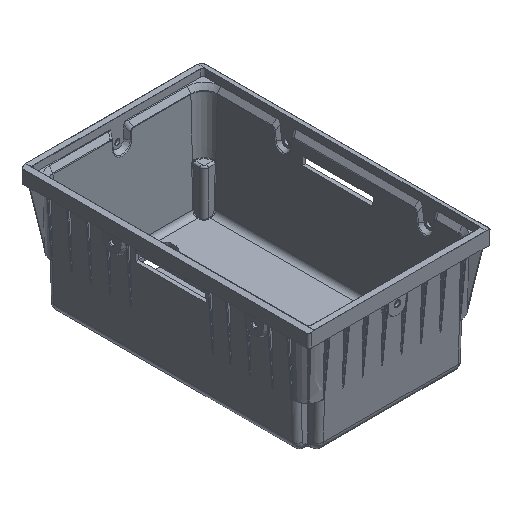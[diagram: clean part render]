
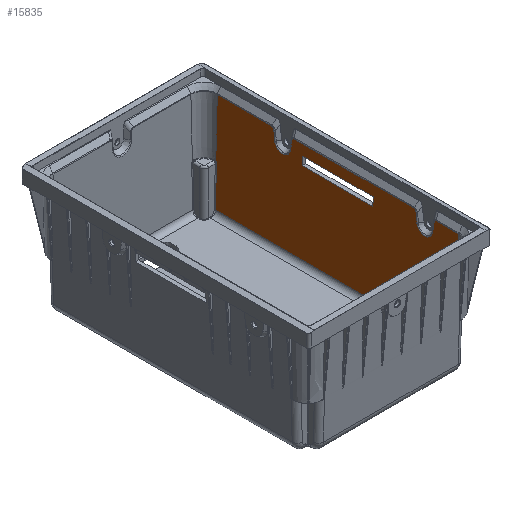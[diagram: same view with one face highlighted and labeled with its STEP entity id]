
A CAD part, isometric view. The second image highlights one B-rep face of the part: STEP entity #15835.
In plain terms, the highlighted planar face has unit normal (-1, 0, 0.026).
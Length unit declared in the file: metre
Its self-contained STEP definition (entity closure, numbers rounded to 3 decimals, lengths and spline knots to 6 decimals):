
#553=ELLIPSE('',#17165,0.004722,0.002501);
#573=ELLIPSE('',#17258,0.004721,0.002501);
#574=ELLIPSE('',#17270,0.004722,0.002501);
#575=ELLIPSE('',#17276,0.004732,0.002504);
#1037=PLANE('',#17277);
#1104=CIRCLE('',#16021,0.002002);
#1330=CIRCLE('',#17155,0.006796);
#1372=CIRCLE('',#17264,0.006796);
#1377=CIRCLE('',#17278,0.002001);
#5572=ORIENTED_EDGE('',*,*,#7297,.T.);
#5573=ORIENTED_EDGE('',*,*,#7301,.T.);
#5574=ORIENTED_EDGE('',*,*,#7304,.T.);
#5575=ORIENTED_EDGE('',*,*,#7306,.T.);
#5576=ORIENTED_EDGE('',*,*,#8266,.T.);
#5577=ORIENTED_EDGE('',*,*,#8264,.F.);
#5578=ORIENTED_EDGE('',*,*,#8258,.F.);
#5579=ORIENTED_EDGE('',*,*,#8256,.T.);
#5580=ORIENTED_EDGE('',*,*,#8250,.F.);
#5581=ORIENTED_EDGE('',*,*,#8248,.F.);
#5582=ORIENTED_EDGE('',*,*,#8241,.T.);
#5583=ORIENTED_EDGE('',*,*,#8272,.T.);
#5584=ORIENTED_EDGE('',*,*,#6242,.T.);
#5585=ORIENTED_EDGE('',*,*,#6244,.T.);
#5586=ORIENTED_EDGE('',*,*,#8273,.T.);
#5587=ORIENTED_EDGE('',*,*,#8274,.T.);
#5588=ORIENTED_EDGE('',*,*,#8275,.T.);
#5589=ORIENTED_EDGE('',*,*,#8276,.F.);
#5590=ORIENTED_EDGE('',*,*,#8120,.T.);
#5591=ORIENTED_EDGE('',*,*,#8122,.F.);
#5592=ORIENTED_EDGE('',*,*,#8113,.F.);
#5593=ORIENTED_EDGE('',*,*,#8107,.T.);
#5594=ORIENTED_EDGE('',*,*,#8105,.F.);
#5595=ORIENTED_EDGE('',*,*,#8271,.F.);
#6242=EDGE_CURVE('',#8545,#8556,#1104,.T.);
#6244=EDGE_CURVE('',#8556,#8558,#10024,.T.);
#7297=EDGE_CURVE('',#9278,#9276,#10758,.T.);
#7301=EDGE_CURVE('',#9276,#9280,#10762,.T.);
#7304=EDGE_CURVE('',#9280,#9282,#10765,.T.);
#7306=EDGE_CURVE('',#9282,#9278,#10767,.T.);
#8105=EDGE_CURVE('',#9790,#9791,#11309,.T.);
#8107=EDGE_CURVE('',#9792,#9791,#1330,.T.);
#8113=EDGE_CURVE('',#9792,#9795,#11313,.T.);
#8120=EDGE_CURVE('',#9801,#9800,#11318,.T.);
#8122=EDGE_CURVE('',#9795,#9800,#553,.T.);
#8241=EDGE_CURVE('',#9874,#9873,#11373,.T.);
#8248=EDGE_CURVE('',#9874,#9877,#573,.T.);
#8250=EDGE_CURVE('',#9877,#9878,#11378,.T.);
#8256=EDGE_CURVE('',#9881,#9878,#1372,.T.);
#8258=EDGE_CURVE('',#9881,#9882,#11382,.T.);
#8264=EDGE_CURVE('',#9882,#9885,#574,.T.);
#8266=EDGE_CURVE('',#9886,#9885,#11386,.T.);
#8271=EDGE_CURVE('',#9886,#9790,#575,.T.);
#8272=EDGE_CURVE('',#9873,#8545,#11389,.T.);
#8273=EDGE_CURVE('',#8558,#9888,#11390,.T.);
#8274=EDGE_CURVE('',#9888,#9889,#11391,.T.);
#8275=EDGE_CURVE('',#9889,#8543,#1377,.T.);
#8276=EDGE_CURVE('',#9801,#8543,#11392,.T.);
#8543=VERTEX_POINT('',#22392);
#8545=VERTEX_POINT('',#22453);
#8556=VERTEX_POINT('',#22539);
#8558=VERTEX_POINT('',#22544);
#9276=VERTEX_POINT('',#24908);
#9278=VERTEX_POINT('',#24911);
#9280=VERTEX_POINT('',#24917);
#9282=VERTEX_POINT('',#24923);
#9790=VERTEX_POINT('',#27007);
#9791=VERTEX_POINT('',#27009);
#9792=VERTEX_POINT('',#27088);
#9795=VERTEX_POINT('',#27128);
#9800=VERTEX_POINT('',#27141);
#9801=VERTEX_POINT('',#27143);
#9873=VERTEX_POINT('',#28264);
#9874=VERTEX_POINT('',#28266);
#9877=VERTEX_POINT('',#28358);
#9878=VERTEX_POINT('',#28362);
#9881=VERTEX_POINT('',#28477);
#9882=VERTEX_POINT('',#28481);
#9885=VERTEX_POINT('',#28572);
#9886=VERTEX_POINT('',#28576);
#9888=VERTEX_POINT('',#28676);
#9889=VERTEX_POINT('',#28678);
#10024=LINE('',#22545,#11519);
#10758=LINE('',#24910,#12253);
#10762=LINE('',#24919,#12257);
#10765=LINE('',#24925,#12260);
#10767=LINE('',#24928,#12262);
#11309=LINE('',#27008,#12804);
#11313=LINE('',#27127,#12808);
#11318=LINE('',#27142,#12813);
#11373=LINE('',#28265,#12868);
#11378=LINE('',#28361,#12873);
#11382=LINE('',#28480,#12877);
#11386=LINE('',#28575,#12881);
#11389=LINE('',#28674,#12884);
#11390=LINE('',#28675,#12885);
#11391=LINE('',#28677,#12886);
#11392=LINE('',#28680,#12887);
#11519=VECTOR('',#17642,1.);
#12253=VECTOR('',#19648,1.);
#12257=VECTOR('',#19654,1.);
#12260=VECTOR('',#19659,1.);
#12262=VECTOR('',#19663,1.);
#12804=VECTOR('',#21187,1.);
#12808=VECTOR('',#21203,1.);
#12813=VECTOR('',#21216,1.);
#12868=VECTOR('',#21453,1.);
#12873=VECTOR('',#21470,1.);
#12877=VECTOR('',#21486,1.);
#12881=VECTOR('',#21502,1.);
#12884=VECTOR('',#21515,1.);
#12885=VECTOR('',#21516,1.);
#12886=VECTOR('',#21517,1.);
#12887=VECTOR('',#21520,1.);
#13786=EDGE_LOOP('',(#5572,#5573,#5574,#5575));
#13787=EDGE_LOOP('',(#5576,#5577,#5578,#5579,#5580,#5581,#5582,#5583,#5584,
#5585,#5586,#5587,#5588,#5589,#5590,#5591,#5592,#5593,#5594,#5595));
#14705=FACE_BOUND('',#13786,.T.);
#14706=FACE_BOUND('',#13787,.T.);
#15835=ADVANCED_FACE('',(#14705,#14706),#1037,.T.);
#16021=AXIS2_PLACEMENT_3D('',#22540,#17636,#17637);
#17155=AXIS2_PLACEMENT_3D('',#27087,#21190,#21191);
#17165=AXIS2_PLACEMENT_3D('',#27217,#21219,#21220);
#17258=AXIS2_PLACEMENT_3D('',#28357,#21464,#21465);
#17264=AXIS2_PLACEMENT_3D('',#28476,#21480,#21481);
#17270=AXIS2_PLACEMENT_3D('',#28571,#21496,#21497);
#17276=AXIS2_PLACEMENT_3D('',#28672,#21511,#21512);
#17277=AXIS2_PLACEMENT_3D('',#28673,#21513,#21514);
#17278=AXIS2_PLACEMENT_3D('',#28679,#21518,#21519);
#17636=DIRECTION('',(1.,0.,-0.026));
#17637=DIRECTION('',(0.019,-0.7,0.714));
#17642=DIRECTION('',(-0.026,0.,-1.));
#19648=DIRECTION('',(-0.026,0.,-1.));
#19654=DIRECTION('',(0.,1.,0.));
#19659=DIRECTION('',(0.026,0.,1.));
#19663=DIRECTION('',(0.,-1.,0.));
#21187=DIRECTION('',(-0.026,-0.111,-0.993));
#21190=DIRECTION('',(1.,0.,-0.026));
#21191=DIRECTION('',(-0.003,-0.994,-0.111));
#21203=DIRECTION('',(0.026,-0.111,0.993));
#21216=DIRECTION('',(0.,1.,0.));
#21219=DIRECTION('',(1.,0.,-0.026));
#21220=DIRECTION('',(-0.025,-0.257,-0.966));
#21453=DIRECTION('',(0.,1.,0.));
#21464=DIRECTION('',(1.,0.,-0.026));
#21465=DIRECTION('',(-0.025,0.257,-0.966));
#21470=DIRECTION('',(-0.026,-0.111,-0.993));
#21480=DIRECTION('',(1.,0.,-0.026));
#21481=DIRECTION('',(-0.003,-0.994,-0.111));
#21486=DIRECTION('',(0.026,-0.111,0.993));
#21496=DIRECTION('',(1.,0.,-0.026));
#21497=DIRECTION('',(-0.025,-0.257,-0.966));
#21502=DIRECTION('',(0.,1.,0.));
#21511=DIRECTION('',(1.,0.,-0.026));
#21512=DIRECTION('',(-0.025,0.258,-0.966));
#21513=DIRECTION('',(-1.,0.,0.026));
#21514=DIRECTION('',(0.,-1.,0.));
#21515=DIRECTION('',(-0.026,0.,-1.));
#21516=DIRECTION('',(0.,-1.,0.));
#21517=DIRECTION('',(0.026,0.,1.));
#21518=DIRECTION('',(1.,0.,-0.026));
#21519=DIRECTION('',(0.,1.,0.));
#21520=DIRECTION('',(-0.026,0.,-1.));
#22392=CARTESIAN_POINT('',(0.06843,-0.1025,0.038865));
#22453=CARTESIAN_POINT('',(0.06843,0.1025,0.038865));
#22539=CARTESIAN_POINT('',(0.068393,0.1019,0.037437));
#22540=CARTESIAN_POINT('',(0.068393,0.103902,0.037437));
#22544=CARTESIAN_POINT('',(0.067514,0.1019,0.003891));
#22545=CARTESIAN_POINT('',(0.068393,0.1019,0.037437));
#24908=CARTESIAN_POINT('',(0.069285,-0.03,0.0715));
#24910=CARTESIAN_POINT('',(0.0688,-0.03,0.052992));
#24911=CARTESIAN_POINT('',(0.069468,-0.03,0.0785));
#24917=CARTESIAN_POINT('',(0.069285,0.03,0.0715));
#24919=CARTESIAN_POINT('',(0.069285,0.116977,0.0715));
#24923=CARTESIAN_POINT('',(0.069468,0.03,0.0785));
#24925=CARTESIAN_POINT('',(0.0688,0.03,0.052992));
#24928=CARTESIAN_POINT('',(0.069468,0.116977,0.0785));
#27007=CARTESIAN_POINT('',(0.069635,-0.066293,0.084883));
#27008=CARTESIAN_POINT('',(0.069635,-0.066293,0.084883));
#27009=CARTESIAN_POINT('',(0.069449,-0.067088,0.07779));
#27087=CARTESIAN_POINT('',(0.069469,-0.073842,0.078544));
#27088=CARTESIAN_POINT('',(0.069449,-0.080597,0.07779));
#27127=CARTESIAN_POINT('',(0.069449,-0.080597,0.07779));
#27128=CARTESIAN_POINT('',(0.069635,-0.081392,0.084883));
#27141=CARTESIAN_POINT('',(0.069698,-0.083193,0.087302));
#27142=CARTESIAN_POINT('',(0.069698,0.039042,0.087302));
#27143=CARTESIAN_POINT('',(0.069698,-0.1025,0.087302));
#27217=CARTESIAN_POINT('',(0.069578,-0.084058,0.082696));
#28264=CARTESIAN_POINT('',(0.069698,0.1025,0.087302));
#28265=CARTESIAN_POINT('',(0.069698,0.039042,0.087302));
#28266=CARTESIAN_POINT('',(0.069698,0.056158,0.087302));
#28357=CARTESIAN_POINT('',(0.069578,0.057023,0.082696));
#28358=CARTESIAN_POINT('',(0.069635,0.054357,0.084883));
#28361=CARTESIAN_POINT('',(0.069635,0.054357,0.084883));
#28362=CARTESIAN_POINT('',(0.069449,0.053562,0.07779));
#28476=CARTESIAN_POINT('',(0.069469,0.046808,0.078544));
#28477=CARTESIAN_POINT('',(0.069449,0.040053,0.07779));
#28480=CARTESIAN_POINT('',(0.069449,0.040053,0.07779));
#28481=CARTESIAN_POINT('',(0.069635,0.039258,0.084883));
#28571=CARTESIAN_POINT('',(0.069578,0.036592,0.082696));
#28572=CARTESIAN_POINT('',(0.069698,0.037457,0.087302));
#28575=CARTESIAN_POINT('',(0.069698,-0.064492,0.087302));
#28576=CARTESIAN_POINT('',(0.069698,-0.064492,0.087302));
#28672=CARTESIAN_POINT('',(0.069577,-0.063623,0.082686));
#28673=CARTESIAN_POINT('',(0.0688,0.116977,0.052992));
#28674=CARTESIAN_POINT('',(0.069698,0.1025,0.087302));
#28675=CARTESIAN_POINT('',(0.067514,0.1019,0.003891));
#28676=CARTESIAN_POINT('',(0.067514,-0.1019,0.003891));
#28677=CARTESIAN_POINT('',(0.067514,-0.1019,0.003891));
#28678=CARTESIAN_POINT('',(0.068393,-0.1019,0.037437));
#28679=CARTESIAN_POINT('',(0.068393,-0.103901,0.037437));
#28680=CARTESIAN_POINT('',(0.069698,-0.1025,0.087302));
